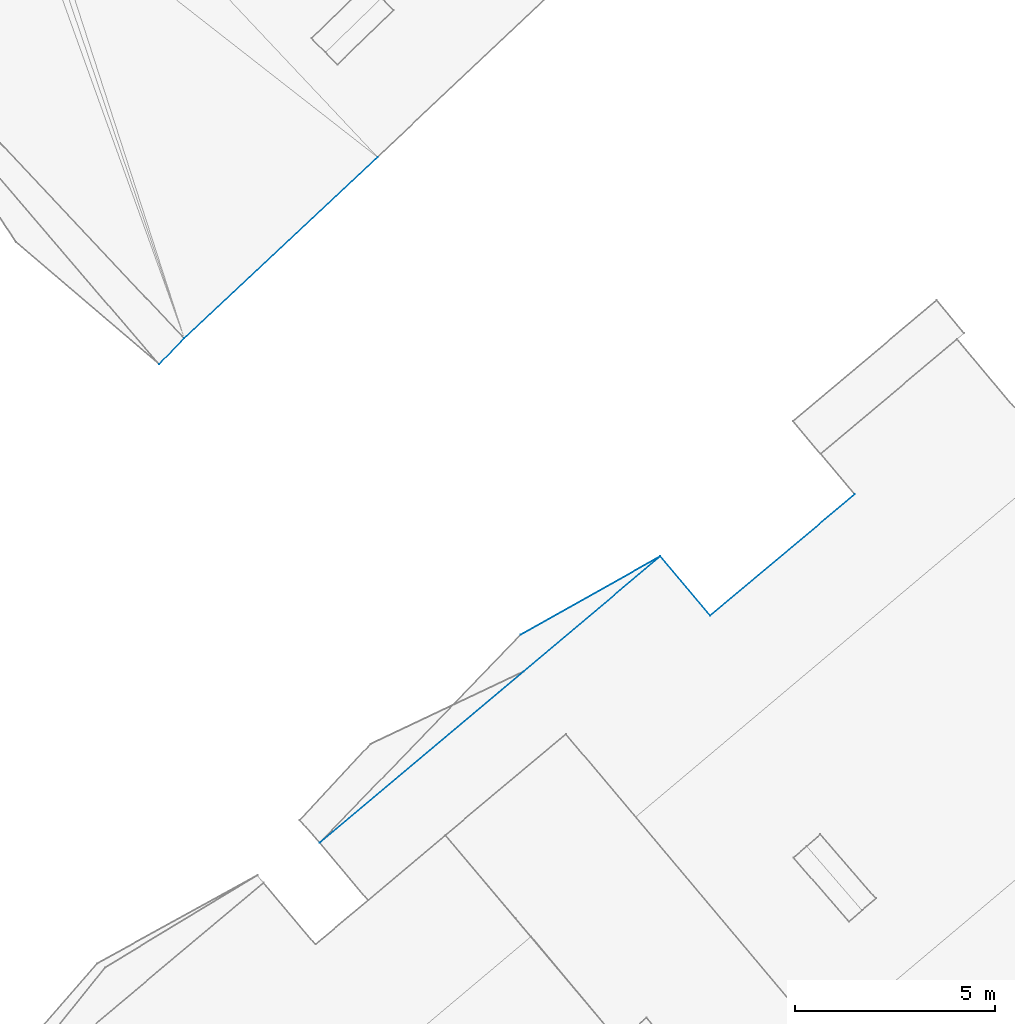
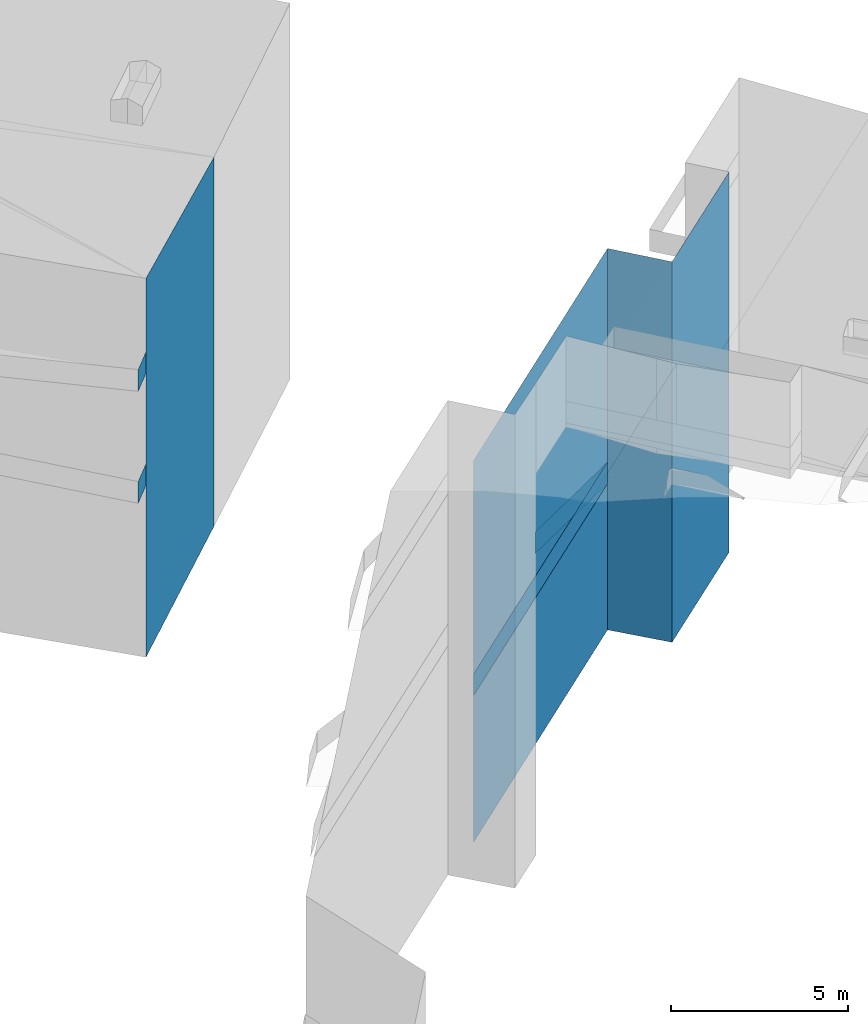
# Not in any storey, part 47 of 136: 12 walls.
"""IFC4 building model written with IfcOpenShell, lengths in metres."""

import ifcopenshell
import ifcopenshell.guid

model = None  # the IFC model being written
_history = None  # IfcOwnerHistory: only IFC2X3 demands one
_inside = {}  # id of a spatial element -> (the spatial element, [elements in it])
_under = {}  # id of a project, library or spatial element -> (it, [spatial elements below it])
_declared = {}  # id of a project -> (the project, [libraries it declares])
_typed = {}  # id of a type object -> (the type object, [elements of that type])
_made_of = {}  # id of a material, layer set ... -> (it, [elements and type objects made of it])


def new_model(schema):
    """Start an empty IFC model of exactly this schema.

    Asked for "IFC4X3", IfcOpenShell would pick the latest addendum, in which some entities
    have other attributes; the version numbers below select the first issue.
    IFC2X3 requires an IfcOwnerHistory on every rooted entity: one is made here for all.
    """
    global model, _history
    if schema == "IFC4X3":
        model = ifcopenshell.file(schema_version=(4, 3, 0, 0))
    else:
        model = ifcopenshell.file(schema=schema)
    _inside.clear()
    _under.clear()
    _declared.clear()
    _typed.clear()
    _made_of.clear()
    _history = None
    if model.schema == "IFC2X3":
        org = make("IfcOrganization", Name="unknown")
        user = make(
            "IfcPersonAndOrganization",
            ThePerson=make("IfcPerson", FamilyName="unknown"),
            TheOrganization=org,
        )
        app = make(
            "IfcApplication",
            ApplicationDeveloper=org,
            Version="unknown",
            ApplicationFullName="unknown",
            ApplicationIdentifier="unknown",
        )
        _history = make(
            "IfcOwnerHistory",
            OwningUser=user,
            OwningApplication=app,
            ChangeAction="ADDED",
            CreationDate=0,
        )
    return model


def make(cls, **values):
    """One entity of the class cls with the attributes given. An attribute that is None is left unset."""
    return model.create_entity(
        cls, **{name: value for name, value in values.items() if value is not None}
    )


def entity(cls, *values):
    """Any entity or typed value of the class cls, its attributes in the order of the schema. None: left unset."""
    e = model.create_entity(cls)
    for i, value in enumerate(values):
        if value is not None:
            e[i] = value
    return e


def rooted(cls, **values):
    """An entity with a GlobalId (a new one), such as an element, a storey or a relation."""
    return make(cls, GlobalId=ifcopenshell.guid.new(), OwnerHistory=_history, **values)


def si_unit(unit_type, name, prefix=None):
    """IfcSIUnit, for example si_unit("LENGTHUNIT", "METRE", prefix="MILLI")."""
    return make("IfcSIUnit", UnitType=unit_type, Prefix=prefix, Name=name)


def converted_unit(unit_type, name, factor, base, dimensions=None, offset=None):
    """IfcConversionBasedUnit, such as the inch: factor (a typed value) times the base unit."""
    return make(
        "IfcConversionBasedUnit"
        if offset is None
        else "IfcConversionBasedUnitWithOffset",
        ConversionOffset=offset,
        Dimensions=None
        if dimensions is None
        else entity("IfcDimensionalExponents", *dimensions),
        UnitType=unit_type,
        Name=name,
        ConversionFactor=make(
            "IfcMeasureWithUnit", ValueComponent=factor, UnitComponent=base
        ),
    )


def assignment(units):
    """IfcUnitAssignment: the units of a project."""
    return None if units is None else make("IfcUnitAssignment", Units=units)


def point(xyz):
    """IfcCartesianPoint."""
    return None if xyz is None else make("IfcCartesianPoint", Coordinates=xyz)


def direction(xyz):
    """IfcDirection."""
    return None if xyz is None else make("IfcDirection", DirectionRatios=xyz)


def frame(location, z_axis=None, x_axis=None):
    """IfcAxis2Placement3D, a coordinate frame: its origin and axes. An axis left out is left unset."""
    return make(
        "IfcAxis2Placement3D",
        Location=point(location),
        Axis=direction(z_axis),
        RefDirection=direction(x_axis),
    )


def origin():
    """The frame at (0, 0, 0) with its axes left unset."""
    return frame((0.0, 0.0, 0.0))


def place(relative_to, where):
    """IfcLocalPlacement: puts the frame where relative to a parent placement (None: the world)."""
    return make(
        "IfcLocalPlacement", PlacementRelTo=relative_to, RelativePlacement=where
    )


def context(
    kind, dimensions, precision=None, world=None, true_north=None, identifier=None
):
    """IfcGeometricRepresentationContext, for example the 3D "Model" context."""
    return make(
        "IfcGeometricRepresentationContext",
        ContextIdentifier=identifier,
        ContextType=kind,
        CoordinateSpaceDimension=dimensions,
        Precision=precision,
        WorldCoordinateSystem=world,
        TrueNorth=true_north,
    )


def subcontext(parent, identifier, kind, view, scale=None):
    """IfcGeometricRepresentationSubContext, for example "Body" below "Model"."""
    return make(
        "IfcGeometricRepresentationSubContext",
        ContextIdentifier=identifier,
        ContextType=kind,
        ParentContext=parent,
        TargetScale=scale,
        TargetView=view,
    )


def project(units=None, contexts=None):
    """IfcProject with its units and contexts."""
    return rooted(
        "IfcProject",
        Name="project",
        RepresentationContexts=contexts,
        UnitsInContext=assignment(units),
    )


def spatial(cls, under=None, at=None, **own):
    """A site, building, storey or space (cls), placed at a placement, below another one or the project."""
    s = rooted(cls, ObjectPlacement=at, **own)
    if under is not None:
        _under.setdefault(under.id(), (under, []))[1].append(s)
    return s


def faces_of(points, faces, orient=None, outer=None):
    """IfcFace entities. A face is a list of loops; a loop is a list of indices into points, from 0.

    orient and outer hold one flag for each loop. By default every Orientation is true, the
    first loop of a face is its IfcFaceOuterBound and the others are IfcFaceBound.
    """
    made = []
    for i, loops in enumerate(faces):
        bounds = []
        for j, loop in enumerate(loops):
            is_outer = j == 0 if outer is None else outer[i][j]
            bounds.append(
                make(
                    "IfcFaceOuterBound" if is_outer else "IfcFaceBound",
                    Bound=make("IfcPolyLoop", Polygon=[points[k] for k in loop]),
                    Orientation=True if orient is None else orient[i][j],
                )
            )
        made.append(make("IfcFace", Bounds=bounds))
    return made


def face_set(faces, orient=None, outer=None):
    """The faces of one IfcConnectedFaceSet. surface_model builds it on its shared points."""
    return ("IfcConnectedFaceSet", faces, orient, outer)


def surface_model(cls, points, shells):
    """IfcFaceBasedSurfaceModel or IfcShellBasedSurfaceModel (cls): surfaces that need not close."""
    shared = [point(p) for p in points]
    made = [make(c, CfsFaces=faces_of(shared, fs, o, b)) for c, fs, o, b in shells]
    if cls == "IfcFaceBasedSurfaceModel":
        return make(cls, FbsmFaces=made)
    return make(cls, SbsmBoundary=made)


def shape(context_of_items, identifier, shape_type, items):
    """IfcShapeRepresentation: the items that make up one representation, for example the "Body"."""
    return make(
        "IfcShapeRepresentation",
        ContextOfItems=context_of_items,
        RepresentationIdentifier=identifier,
        RepresentationType=shape_type,
        Items=items,
    )


def made_of(thing, what):
    """Note that an element or type object is made of a material, layer set ...; save() writes the relation."""
    if what is not None:
        _made_of.setdefault(what.id(), (what, []))[1].append(thing)
    return thing


def element(
    cls,
    number,
    at=None,
    inside=None,
    cuts=None,
    type_object=None,
    material=None,
    context=None,
    identifier="Body",
    shape_type=None,
    held_by="IfcProductDefinitionShape",
    body=None,
    shapes=None,
    **own,
):
    """One element of the class cls, such as IfcWall. Its Tag is "e" and its number.

    at: its placement. inside: the storey or other place that contains it. cuts: it is an
    opening in that element (IfcRelVoidsElement). A single representation is given by context,
    identifier, shape_type and body (its items); several are given by shapes. held_by: the class
    of the entity that holds the representations. save() writes the other relations.
    """
    e = rooted(cls, Tag="e%d" % number, ObjectPlacement=at, **own)
    if body is not None:
        shapes = [shape(context, identifier, shape_type, body)]
    if shapes is not None:
        e.Representation = make(held_by, Representations=shapes)
    if inside is not None:
        _inside.setdefault(inside.id(), (inside, []))[1].append(e)
    if cuts is not None:
        rooted(
            "IfcRelVoidsElement", RelatingBuildingElement=cuts, RelatedOpeningElement=e
        )
    if type_object is not None:
        _typed.setdefault(type_object.id(), (type_object, []))[1].append(e)
    return made_of(e, material)


def aggregate(whole, parts):
    """IfcRelAggregates: a whole, such as a stair, and the parts it consists of."""
    return rooted("IfcRelAggregates", RelatingObject=whole, RelatedObjects=parts)


def save(model, path):
    """Write the relations noted so far, then the file.

    IfcRelAggregates (storeys below a building ...), IfcRelContainedInSpatialStructure (elements
    in a storey), IfcRelDefinesByType, IfcRelAssociatesMaterial and IfcRelDeclares: one each for
    every whole, place, type object, material and project.
    """
    for whole, parts in _under.values():
        aggregate(whole, parts)
    for where, things in _inside.values():
        rooted(
            "IfcRelContainedInSpatialStructure",
            RelatedElements=things,
            RelatingStructure=where,
        )
    for kind, things in _typed.values():
        rooted("IfcRelDefinesByType", RelatedObjects=things, RelatingType=kind)
    for what, things in _made_of.values():
        rooted("IfcRelAssociatesMaterial", RelatedObjects=things, RelatingMaterial=what)
    for by, libraries in _declared.values():
        rooted("IfcRelDeclares", RelatingContext=by, RelatedDefinitions=libraries)
    model.write(path)


model = new_model("IFC4")

# Units and contexts
model_context = context("Model", 3, precision=1e-05, world=origin())
body_context = subcontext(model_context, "Body", "Model", "MODEL_VIEW")
ifc_project = project(units=[converted_unit("PLANEANGLEUNIT", "DEGREE", entity("IfcRatioMeasure", 0.0174532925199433), si_unit("PLANEANGLEUNIT", "RADIAN"), dimensions=[0, 0, 0, 0, 0, 0, 0]), si_unit("AREAUNIT", "SQUARE_METRE"), si_unit("LENGTHUNIT", "METRE")], contexts=[model_context])

# Site, building
site_placement = place(None, origin())
site = spatial("IfcSite", under=ifc_project, at=site_placement, Name="_site")
building_1_placement = place(site_placement, origin())
building_1 = spatial("IfcBuilding", under=site, at=building_1_placement, Name="_building")

# Walls
for number, where, name in (
    (1, (0.0, 0.0, 0.0), "Wall"),
    (2, (0.0, 0.0, 0.0), "Wall"),
):
    element("IfcWall", number, at=place(building_1_placement, frame(where)), inside=building_1, Name=name, PredefinedType="NOTDEFINED", context=body_context, shape_type="SurfaceModel", body=[
        surface_model("IfcFaceBasedSurfaceModel", [(40.15, 84.73, 43.92), (39.52, 84.08, 43.92), (39.52, 84.08, 44.67), (40.15, 84.73, 44.67)], [face_set([[[0, 1, 2, 3]]])]),
    ])
for number, where, name in (
    (3, (0.0, 0.0, 0.0), "Wall"),
    (4, (0.0, 0.0, 0.0), "Wall"),
):
    element("IfcWall", number, at=place(building_1_placement, frame(where)), inside=building_1, Name=name, PredefinedType="NOTDEFINED", context=body_context, shape_type="SurfaceModel", body=[
        surface_model("IfcFaceBasedSurfaceModel", [(40.15, 84.73, 47.78), (39.52, 84.08, 47.78), (39.52, 84.08, 48.53), (40.15, 84.73, 48.53)], [face_set([[[0, 1, 2, 3]]])]),
    ])
wall_1_placement = place(building_1_placement, origin())
element("IfcWall", 5, at=wall_1_placement, inside=building_1, Name="Wall", PredefinedType="NOTDEFINED", context=body_context, shape_type="SurfaceModel", body=[
    surface_model("IfcFaceBasedSurfaceModel", [(44.98, 89.26, 50.8), (40.15, 84.73, 51.06), (40.15, 84.73, 38.0), (44.98, 89.26, 38.068)], [face_set([[[0, 1, 2, 3]]])]),
])

# Building
building_2_placement = place(site_placement, origin())
building_2 = spatial("IfcBuilding", under=site, at=building_2_placement, Name="_building")

# Walls
wall_2_placement = place(building_2_placement, origin())
element("IfcWall", 6, at=wall_2_placement, inside=building_2, Name="Wall", PredefinedType="NOTDEFINED", context=body_context, shape_type="SurfaceModel", body=[
    surface_model("IfcFaceBasedSurfaceModel", [(52.05, 79.28, 43.12), (43.54, 72.12, 43.12), (43.54, 72.12, 43.87), (52.05, 79.28, 43.87)], [face_set([[[0, 1, 2, 3]]])]),
])
wall_3_placement = place(building_2_placement, origin())
element("IfcWall", 7, at=wall_3_placement, inside=building_2, Name="Wall", PredefinedType="NOTDEFINED", context=body_context, shape_type="SurfaceModel", body=[
    surface_model("IfcFaceBasedSurfaceModel", [(48.56, 77.32, 43.12), (52.05, 79.28, 43.12), (52.05, 79.28, 43.87), (48.56, 77.32, 43.87)], [face_set([[[0, 1, 2, 3]]])]),
])
wall_4_placement = place(building_2_placement, origin())
element("IfcWall", 8, at=wall_4_placement, inside=building_2, Name="Wall", PredefinedType="NOTDEFINED", context=body_context, shape_type="SurfaceModel", body=[
    surface_model("IfcFaceBasedSurfaceModel", [(52.05, 79.28, 43.12), (43.54, 72.12, 43.12), (43.54, 72.12, 43.87), (52.05, 79.28, 43.87)], [face_set([[[0, 1, 2, 3]]])]),
])
wall_5_placement = place(building_2_placement, origin())
element("IfcWall", 9, at=wall_5_placement, inside=building_2, Name="Wall", PredefinedType="NOTDEFINED", context=body_context, shape_type="SurfaceModel", body=[
    surface_model("IfcFaceBasedSurfaceModel", [(48.56, 77.32, 43.12), (52.05, 79.28, 43.12), (52.05, 79.28, 43.87), (48.56, 77.32, 43.87)], [face_set([[[0, 1, 2, 3]]])]),
])
wall_6_placement = place(building_2_placement, origin())
element("IfcWall", 10, at=wall_6_placement, inside=building_2, Name="Wall", PredefinedType="NOTDEFINED", context=body_context, shape_type="SurfaceModel", body=[
    surface_model("IfcFaceBasedSurfaceModel", [(53.3, 77.8, 51.23), (56.91, 80.83, 51.23), (56.91, 80.83, 38.119), (53.3, 77.8, 38.113)], [face_set([[[0, 1, 2, 3]]])]),
])
wall_7_placement = place(building_2_placement, origin())
element("IfcWall", 11, at=wall_7_placement, inside=building_2, Name="Wall", PredefinedType="NOTDEFINED", context=body_context, shape_type="SurfaceModel", body=[
    surface_model("IfcFaceBasedSurfaceModel", [(43.54, 72.12, 51.23), (52.05, 79.28, 51.23), (52.05, 79.28, 38.083), (43.54, 72.12, 38.063)], [face_set([[[0, 1, 2, 3]]])]),
])
wall_8_placement = place(building_2_placement, origin())
element("IfcWall", 12, at=wall_8_placement, inside=building_2, Name="Wall", PredefinedType="NOTDEFINED", context=body_context, shape_type="SurfaceModel", body=[
    surface_model("IfcFaceBasedSurfaceModel", [(52.05, 79.28, 51.23), (53.3, 77.8, 51.23), (53.3, 77.8, 38.113), (52.05, 79.28, 38.083)], [face_set([[[0, 1, 2, 3]]])]),
])

save(model, "model.ifc")
